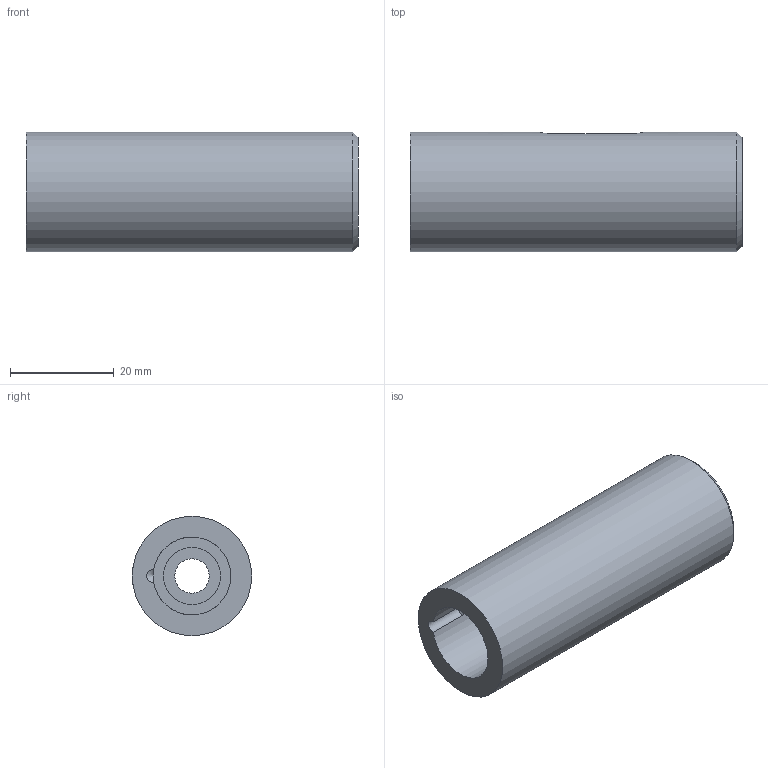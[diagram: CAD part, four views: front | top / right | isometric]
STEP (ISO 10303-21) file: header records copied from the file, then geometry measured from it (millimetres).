
FILE_DESCRIPTION(/* description */ (''),/* implementation_level */ '2;1');
FILE_NAME(/* name */ '',/* time_stamp */ '2026-08-27T17:03:24+09:00',/* author */ ('jhkim'),/* organization */ (''),/* preprocessor_version */ 'ST-DEVELOPER v20.1',/* originating_system */ 'Autodesk Inventor 2027',/* authorisation */ '');
FILE_SCHEMA (('AUTOMOTIVE_DESIGN { 1 0 10303 214 3 1 1 }'));
Length unit declared in the file: millimetre
Products named in the file (1): 슬리브
Bounding box: 64 x 23 x 23 mm (x, y, z)
Volume: 19314.9 mm3; surface area: 7756.7 mm2
Topology: 1 solids, 1 shells, 16 faces, 34 edges, 22 vertices
Faces by surface type: cylinder 7, plane 7, cone 2
Full cylindrical faces by diameter (mm): 6.647 x1, 11 x1, 15 x1, 23 x1
Entity records: 510 total; most frequent: CARTESIAN_POINT 112, DIRECTION 77, ORIENTED_EDGE 66, EDGE_CURVE 33, AXIS2_PLACEMENT_3D 31, VERTEX_POINT 22, EDGE_LOOP 21, FACE_OUTER_BOUND 16
